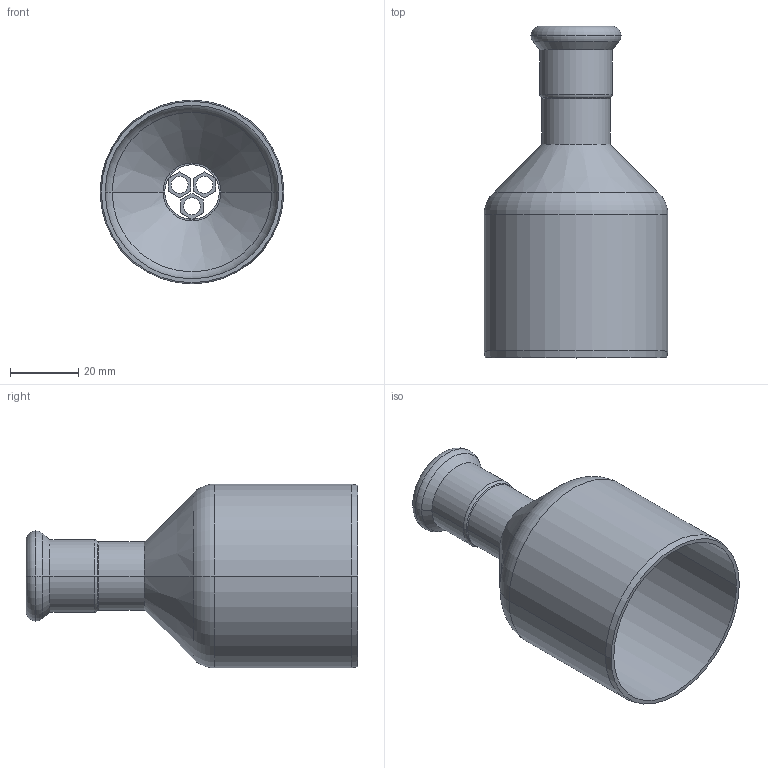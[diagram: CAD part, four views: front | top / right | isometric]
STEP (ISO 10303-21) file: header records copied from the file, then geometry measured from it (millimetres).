
FILE_DESCRIPTION(('OneSpaceDesigner STEP Export'),'2;1');
FILE_NAME('R2707 18x54.stp','2010-06-09T13:06:52',(''),(''),'OneSpace Designer STEP processor for AP214 (Solid Model)','OneSpace Modeling 15.00A 14-Mar-2007 (C) CoCreate Software GmbH','');
FILE_SCHEMA(('AUTOMOTIVE_DESIGN { 1 0 10303 214 1 1 1 1 }'));
Length unit declared in the file: millimetre
Products named in the file (2): R2707_18x54
Assembly tree (1 placements, depth 2):
  R2707_18x54
    R2707_18x54
Bounding box: 54 x 97.5 x 54 mm (x, y, z)
Volume: 20069.7 mm3; surface area: 25445 mm2
Topology: 1 solids, 1 shells, 77 faces, 181 edges, 112 vertices
Faces by surface type: plane 32, cylinder 25, cone 10, torus 10
Entity records: 1978 total; most frequent: ORIENTED_EDGE 362, CARTESIAN_POINT 314, DIRECTION 303, EDGE_CURVE 181, VERTEX_POINT 112, AXIS2_PLACEMENT_3D 101, VECTOR 101, LINE 101
